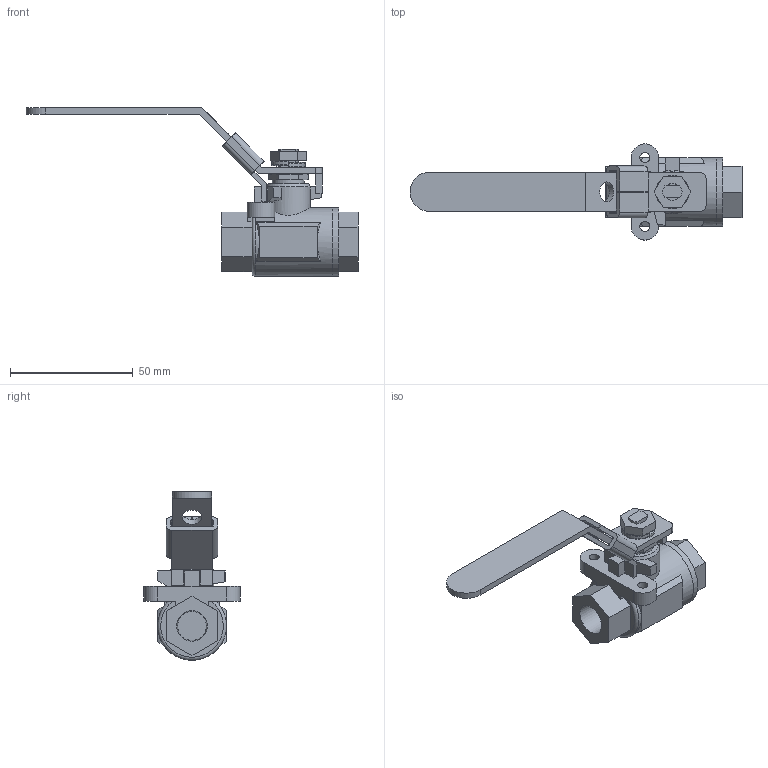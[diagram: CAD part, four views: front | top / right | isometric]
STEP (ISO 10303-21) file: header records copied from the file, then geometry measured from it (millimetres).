
FILE_DESCRIPTION((' '),'2;1');
FILE_NAME('N:\Technical Support\Private\Jomar Valve CAD\Ball Valves\CS and SS\1001N\.25 T-CS[SS]-1001N (100-971 [100-961])FusionCopy.stp.step','2017-05-12T14:24:32',(' '),(' '),' ','ACIS',' ');
FILE_SCHEMA(('CONFIG_CONTROL_DESIGN'));
Length unit declared in the file: inch
Products named in the file (9): N:\Technical Support\Private\Jomar Valve CAD\Ball Valves\CS and SS\1001N\.25 T-CS[SS]-1001N (100-971 [100-961])FusionCopy.stp.step; Body1; Body2; Body3; Body4; Body5; Body6; Body7; Body8
Assembly tree (8 placements, depth 2):
  N:\Technical Support\Private\Jomar Valve CAD\Ball Valves\CS and SS\1001N\.25 T-CS[SS]-1001N (100-971 [100-961])FusionCopy.stp.step
    Body1
    Body2
    Body3
    Body4
    Body5
    Body6
    Body7
    Body8
Bounding box: 135.43 x 39.24 x 68.79 mm (x, y, z)
Volume: 41232.8 mm3; surface area: 18584.4 mm2
Topology: 8 solids, 8 shells, 175 faces, 446 edges, 290 vertices
Faces by surface type: plane 117, cylinder 27, bspline 15, cone 11, torus 5
Full cylindrical faces by diameter (mm): 4.064 x2, 6.858 x1, 8.128 x1, 8.89 x1, 9.271 x1, 13.081 x1, 28.067 x2
Entity records: 6462 total; most frequent: CARTESIAN_POINT 1018, DIRECTION 870, ORIENTED_EDGE 850, EDGE_CURVE 425, VECTOR 314, LINE 314, VERTEX_POINT 283, AXIS2_PLACEMENT_3D 278
